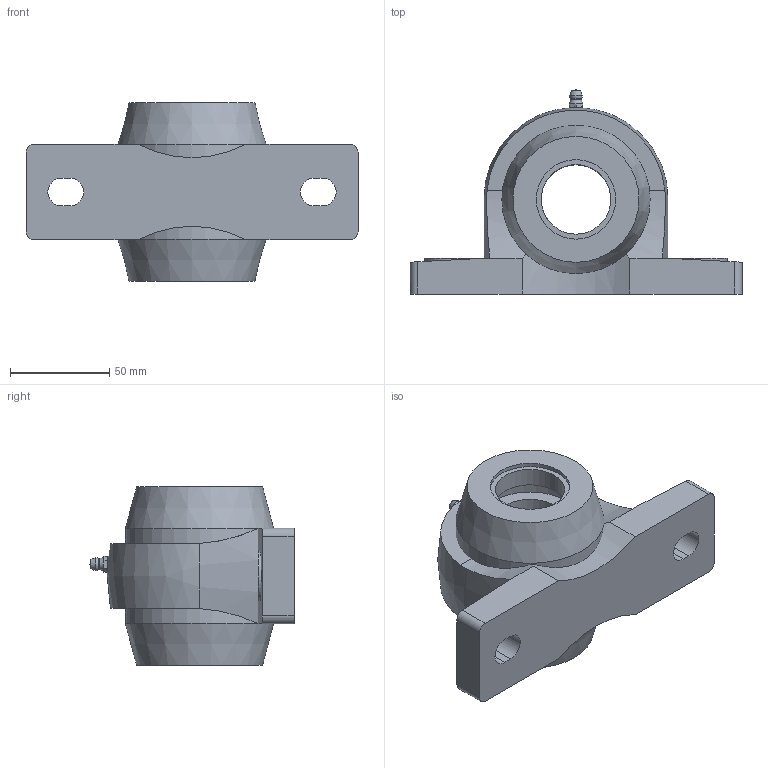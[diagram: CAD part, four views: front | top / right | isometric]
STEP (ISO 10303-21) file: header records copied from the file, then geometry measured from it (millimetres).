
FILE_DESCRIPTION(/* description */ (''),/* implementation_level */ '2;1');
FILE_NAME(/* name */ 'C:\Users\UGijyutu_200702\Desktop\77.プラスチックハウジング\MBPPL200V\MBPPL200VC\MBPPL207VC.stp',/* time_stamp */ '2023-02-10T16:07:14+09:00',/* author */ ('UGijyutu_200702'),/* organization */ (''),/* preprocessor_version */ 'ST-DEVELOPER v18',/* originating_system */ 'Autodesk Inventor 2020',/* authorisation */ '');
FILE_SCHEMA (('AUTOMOTIVE_DESIGN { 1 0 10303 214 3 1 1 }'));
Length unit declared in the file: millimetre
Products named in the file (5): MBPPL207VC; PPL207; MB7 V; 1/4-28UNF-2A; 207C
Assembly tree (5 placements, depth 2):
  MBPPL207VC
    PPL207
    MB7 V
    1/4-28UNF-2A
    207C  x2
Bounding box: 167 x 102.8 x 89.7 mm (x, y, z)
Volume: 316491.9 mm3; surface area: 97808.9 mm2
Topology: 5 solids, 5 shells, 131 faces, 329 edges, 223 vertices
Faces by surface type: plane 64, cylinder 41, cone 19, sphere 4, torus 2, bspline 1
Full cylindrical faces by diameter (mm): 3.2 x1, 5.359 x1, 6 x2, 6.35 x1, 35 x3, 40 x2, 48 x1, 51 x2, 70.6 x2, 74 x2, 74.6 x2
Entity records: 4247 total; most frequent: CARTESIAN_POINT 1065, DIRECTION 617, ORIENTED_EDGE 606, EDGE_CURVE 303, AXIS2_PLACEMENT_3D 244, VERTEX_POINT 205, EDGE_LOOP 144, LINE 129
